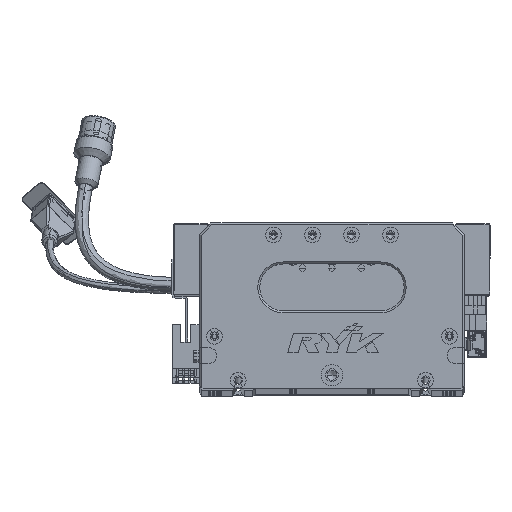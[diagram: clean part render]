
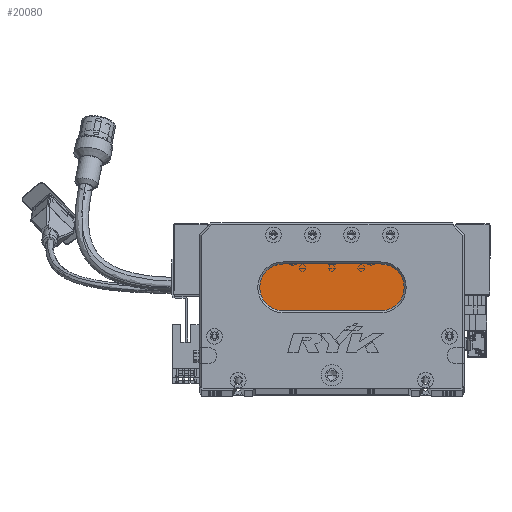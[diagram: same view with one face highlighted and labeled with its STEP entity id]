
A CAD part, top view. The second image highlights one B-rep face of the part: STEP entity #20080.
In plain terms, the highlighted planar face has unit normal (0, 0, 1) as drawn and (0, 0, -1) by its records, which use the part's own axes.
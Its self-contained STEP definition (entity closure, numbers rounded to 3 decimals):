
#1784 = DIRECTION ( 'NONE',  ( -1., 0., 0. ) ) ;
#6315 = DIRECTION ( 'NONE',  ( -1., 0., 0. ) ) ;
#7674 = LINE ( 'NONE', #82631, #50952 ) ;
#9366 = CARTESIAN_POINT ( 'NONE',  ( 93., 40., 13. ) ) ;
#10347 = ORIENTED_EDGE ( 'NONE', *, *, #47722, .T. ) ;
#13946 = EDGE_CURVE ( 'NONE', #95312, #64441, #7674, .T. ) ;
#18077 = DIRECTION ( 'NONE',  ( -1., 0., 0. ) ) ;
#18900 = FACE_OUTER_BOUND ( 'NONE', #102710, .T. ) ;
#19135 = AXIS2_PLACEMENT_3D ( 'NONE', #57019, #82298, #6315 ) ;
#19857 = VECTOR ( 'NONE', #18077, 1000. ) ;
#20080 = ADVANCED_FACE ( 'NONE', ( #18900 ), #82157, .T. ) ;
#20310 = DIRECTION ( 'NONE',  ( 0., 0., -1. ) ) ;
#21334 = CIRCLE ( 'NONE', #81219, 12. ) ;
#27799 = ORIENTED_EDGE ( 'NONE', *, *, #98725, .T. ) ;
#29034 = DIRECTION ( 'NONE',  ( -1., 0., 0. ) ) ;
#30491 = CARTESIAN_POINT ( 'NONE',  ( 93., 52., 13. ) ) ;
#35186 = DIRECTION ( 'NONE',  ( 0., 0., -1. ) ) ;
#37266 = VERTEX_POINT ( 'NONE', #83330 ) ;
#40363 = ORIENTED_EDGE ( 'NONE', *, *, #13946, .T. ) ;
#43383 = CARTESIAN_POINT ( 'NONE',  ( 93., 40., 13. ) ) ;
#47722 = EDGE_CURVE ( 'NONE', #37266, #95312, #21334, .T. ) ;
#47921 = DIRECTION ( 'NONE',  ( 1., 0., 0. ) ) ;
#48358 = AXIS2_PLACEMENT_3D ( 'NONE', #70247, #35186, #1784 ) ;
#49931 = VERTEX_POINT ( 'NONE', #76203 ) ;
#50952 = VECTOR ( 'NONE', #47921, 1000. ) ;
#56981 = DIRECTION ( 'NONE',  ( 0., 0., -1. ) ) ;
#57019 = CARTESIAN_POINT ( 'NONE',  ( 93., 52., 13. ) ) ;
#57336 = DIRECTION ( 'NONE',  ( -1., 0., 0. ) ) ;
#64020 = ORIENTED_EDGE ( 'NONE', *, *, #93622, .T. ) ;
#64441 = VERTEX_POINT ( 'NONE', #92581 ) ;
#70247 = CARTESIAN_POINT ( 'NONE',  ( 43., 52., 13. ) ) ;
#75077 = CARTESIAN_POINT ( 'NONE',  ( 43., 52., 13. ) ) ;
#76203 = CARTESIAN_POINT ( 'NONE',  ( 43., 40., 13. ) ) ;
#81219 = AXIS2_PLACEMENT_3D ( 'NONE', #75077, #56981, #57336 ) ;
#82157 = PLANE ( 'NONE',  #104639 ) ;
#82298 = DIRECTION ( 'NONE',  ( 0., 0., -1. ) ) ;
#82631 = CARTESIAN_POINT ( 'NONE',  ( 93., 64., 13. ) ) ;
#83330 = CARTESIAN_POINT ( 'NONE',  ( 31., 52., 13. ) ) ;
#84171 = CIRCLE ( 'NONE', #48358, 12. ) ;
#92581 = CARTESIAN_POINT ( 'NONE',  ( 93., 64., 13. ) ) ;
#93622 = EDGE_CURVE ( 'NONE', #49931, #37266, #84171, .T. ) ;
#95312 = VERTEX_POINT ( 'NONE', #106968 ) ;
#96088 = VERTEX_POINT ( 'NONE', #9366 ) ;
#98725 = EDGE_CURVE ( 'NONE', #96088, #49931, #107855, .T. ) ;
#102710 = EDGE_LOOP ( 'NONE', ( #104907, #27799, #64020, #10347, #40363 ) ) ;
#104302 = CIRCLE ( 'NONE', #19135, 12. ) ;
#104639 = AXIS2_PLACEMENT_3D ( 'NONE', #30491, #20310, #29034 ) ;
#104907 = ORIENTED_EDGE ( 'NONE', *, *, #108221, .T. ) ;
#106968 = CARTESIAN_POINT ( 'NONE',  ( 43., 64., 13. ) ) ;
#107855 = LINE ( 'NONE', #43383, #19857 ) ;
#108221 = EDGE_CURVE ( 'NONE', #64441, #96088, #104302, .T. ) ;
